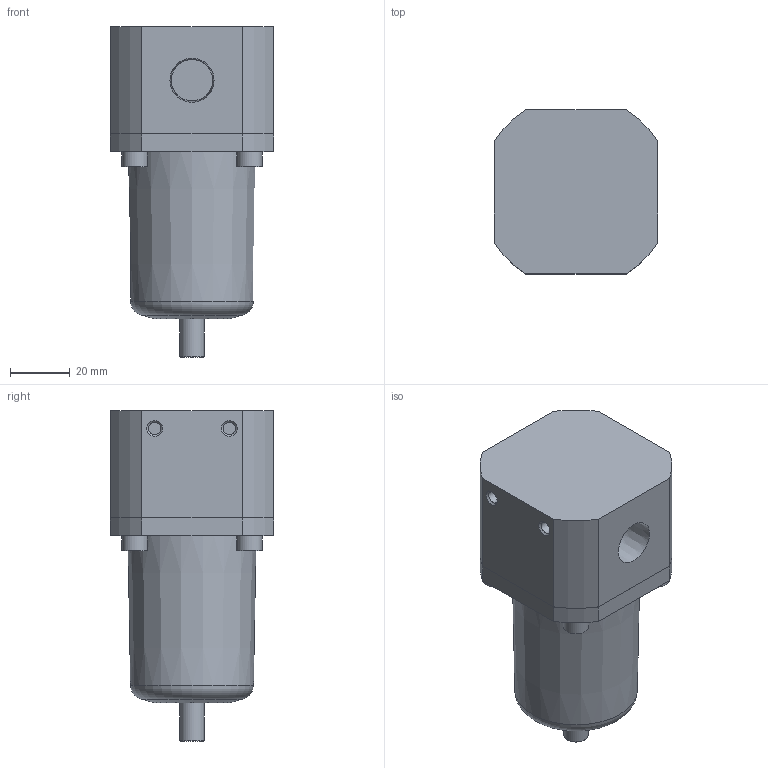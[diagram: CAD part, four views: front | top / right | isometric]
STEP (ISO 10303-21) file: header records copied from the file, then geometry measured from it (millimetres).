
FILE_DESCRIPTION(/* description */ ('FILTRO G3/8 NPT #µm - #'),/* implementation_level */ '2;1');
FILE_NAME(/* name */ 'I:\Area Tecnica\Disegni\VARIE-3D\Componenti\FRL-INOX\SS172\SS172BF# #.step',/* time_stamp */ '2016-04-06T09:50:56+02:00',/* author */ ('M.Valota'),/* organization */ ('Pneumax S.p.A.'),/* preprocessor_version */ 'ST-DEVELOPER v15.2',/* originating_system */ 'Autodesk Inventor 2014',/* authorisation */ '');
FILE_SCHEMA (('AUTOMOTIVE_DESIGN { 1 0 10303 214 3 1 1 }'));
Length unit declared in the file: millimetre
Products named in the file (1): SS172BF# #
Bounding box: 55 x 55 x 111 mm (x, y, z)
Volume: 193119.5 mm3; surface area: 23181 mm2
Topology: 1 solids, 1 shells, 82 faces, 178 edges, 117 vertices
Faces by surface type: plane 53, cylinder 19, cone 9, torus 1
Full cylindrical faces by diameter (mm): 4.134 x4, 8.2 x1, 8.5 x4, 13.889 x2
Entity records: 2213 total; most frequent: DIRECTION 372, CARTESIAN_POINT 353, ORIENTED_EDGE 310, EDGE_CURVE 155, AXIS2_PLACEMENT_3D 134, EDGE_LOOP 122, VERTEX_POINT 115, LINE 104
